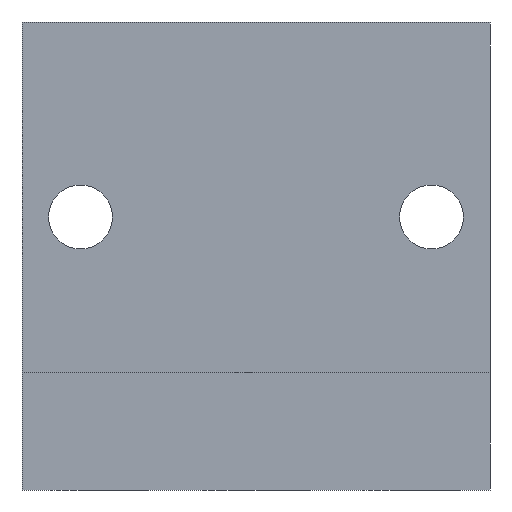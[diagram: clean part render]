
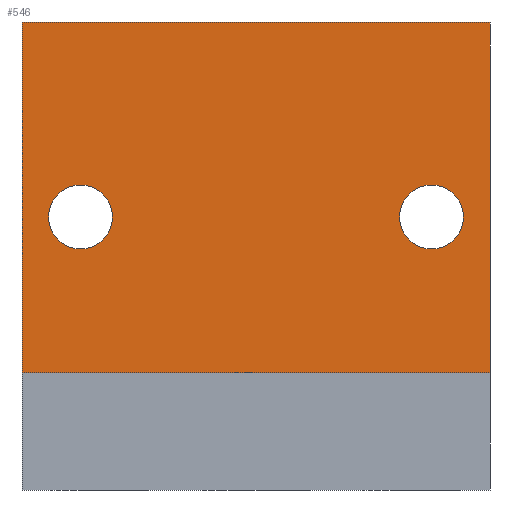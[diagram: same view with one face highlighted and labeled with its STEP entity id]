
A CAD part, front view. The second image highlights one B-rep face of the part: STEP entity #546.
In plain terms, the highlighted planar face has unit normal (0, -1, 0).
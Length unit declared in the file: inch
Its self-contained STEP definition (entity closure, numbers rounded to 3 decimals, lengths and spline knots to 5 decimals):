
#6 = VECTOR ( 'NONE', #735, 39.37008 ) ;
#7 = ORIENTED_EDGE ( 'NONE', *, *, #419, .T. ) ;
#9 = AXIS2_PLACEMENT_3D ( 'NONE', #741, #751, #748 ) ;
#33 = LINE ( 'NONE', #822, #714 ) ;
#37 = ORIENTED_EDGE ( 'NONE', *, *, #140, .T. ) ;
#41 = CARTESIAN_POINT ( 'NONE',  ( -1.46274, -1.31698, 1.955 ) ) ;
#48 = ORIENTED_EDGE ( 'NONE', *, *, #924, .T. ) ;
#52 = CARTESIAN_POINT ( 'NONE',  ( 1.16226, -1.31698, 3. ) ) ;
#61 = LINE ( 'NONE', #249, #233 ) ;
#63 = ORIENTED_EDGE ( 'NONE', *, *, #222, .T. ) ;
#72 = EDGE_LOOP ( 'NONE', ( #7, #63 ) ) ;
#76 = CIRCLE ( 'NONE', #835, 0.205 ) ;
#108 = DIRECTION ( 'NONE',  ( 0., 0., -1. ) ) ;
#124 = VERTEX_POINT ( 'NONE', #659 ) ;
#140 = EDGE_CURVE ( 'NONE', #867, #654, #61, .T. ) ;
#161 = DIRECTION ( 'NONE',  ( 0., 0., 1. ) ) ;
#163 = DIRECTION ( 'NONE',  ( 0., 1., 0. ) ) ;
#167 = CARTESIAN_POINT ( 'NONE',  ( -1.46274, -1.31698, 1.75 ) ) ;
#179 = VERTEX_POINT ( 'NONE', #52 ) ;
#192 = CARTESIAN_POINT ( 'NONE',  ( -1.83774, -1.31698, 3. ) ) ;
#208 = CARTESIAN_POINT ( 'NONE',  ( -1.46274, -1.31698, 1.545 ) ) ;
#222 = EDGE_CURVE ( 'NONE', #645, #353, #76, .T. ) ;
#233 = VECTOR ( 'NONE', #108, 39.37008 ) ;
#244 = VERTEX_POINT ( 'NONE', #41 ) ;
#249 = CARTESIAN_POINT ( 'NONE',  ( -1.83774, -1.31698, 0.375 ) ) ;
#252 = EDGE_CURVE ( 'NONE', #877, #244, #919, .T. ) ;
#266 = CARTESIAN_POINT ( 'NONE',  ( 0.78726, -1.31698, 1.75 ) ) ;
#275 = DIRECTION ( 'NONE',  ( 1., 0., 0. ) ) ;
#278 = CARTESIAN_POINT ( 'NONE',  ( -1.83774, -1.31698, 3. ) ) ;
#287 = EDGE_CURVE ( 'NONE', #179, #124, #865, .T. ) ;
#291 = FACE_BOUND ( 'NONE', #72, .T. ) ;
#353 = VERTEX_POINT ( 'NONE', #676 ) ;
#373 = CARTESIAN_POINT ( 'NONE',  ( -1.83774, -1.31698, 0.75 ) ) ;
#385 = CARTESIAN_POINT ( 'NONE',  ( 0.78726, -1.31698, 1.545 ) ) ;
#408 = ORIENTED_EDGE ( 'NONE', *, *, #252, .T. ) ;
#419 = EDGE_CURVE ( 'NONE', #353, #645, #727, .T. ) ;
#445 = FACE_OUTER_BOUND ( 'NONE', #758, .T. ) ;
#447 = ORIENTED_EDGE ( 'NONE', *, *, #753, .F. ) ;
#476 = LINE ( 'NONE', #278, #498 ) ;
#486 = DIRECTION ( 'NONE',  ( 0., 0., 1. ) ) ;
#490 = DIRECTION ( 'NONE',  ( 0., 1., 0. ) ) ;
#491 = PLANE ( 'NONE',  #921 ) ;
#498 = VECTOR ( 'NONE', #275, 39.37008 ) ;
#503 = CARTESIAN_POINT ( 'NONE',  ( -1.83774, -1.31698, 0.375 ) ) ;
#512 = FACE_BOUND ( 'NONE', #875, .T. ) ;
#522 = EDGE_CURVE ( 'NONE', #124, #654, #33, .T. ) ;
#546 = ADVANCED_FACE ( 'NONE', ( #512, #291, #445 ), #491, .F. ) ;
#554 = AXIS2_PLACEMENT_3D ( 'NONE', #642, #639, #633 ) ;
#576 = CIRCLE ( 'NONE', #742, 0.205 ) ;
#633 = DIRECTION ( 'NONE',  ( 0., 0., 1. ) ) ;
#639 = DIRECTION ( 'NONE',  ( 0., 1., 0. ) ) ;
#642 = CARTESIAN_POINT ( 'NONE',  ( 0.78726, -1.31698, 1.75 ) ) ;
#645 = VERTEX_POINT ( 'NONE', #385 ) ;
#654 = VERTEX_POINT ( 'NONE', #373 ) ;
#659 = CARTESIAN_POINT ( 'NONE',  ( 1.16226, -1.31698, 0.75 ) ) ;
#676 = CARTESIAN_POINT ( 'NONE',  ( 0.78726, -1.31698, 1.955 ) ) ;
#711 = CARTESIAN_POINT ( 'NONE',  ( 1.16226, -1.31698, 0.375 ) ) ;
#714 = VECTOR ( 'NONE', #821, 39.37008 ) ;
#727 = CIRCLE ( 'NONE', #554, 0.205 ) ;
#735 = DIRECTION ( 'NONE',  ( 0., 0., -1. ) ) ;
#741 = CARTESIAN_POINT ( 'NONE',  ( -1.46274, -1.31698, 1.75 ) ) ;
#742 = AXIS2_PLACEMENT_3D ( 'NONE', #167, #163, #161 ) ;
#748 = DIRECTION ( 'NONE',  ( 0., 0., 1. ) ) ;
#751 = DIRECTION ( 'NONE',  ( 0., 1., 0. ) ) ;
#753 = EDGE_CURVE ( 'NONE', #867, #179, #476, .T. ) ;
#758 = EDGE_LOOP ( 'NONE', ( #37, #920, #870, #447 ) ) ;
#815 = DIRECTION ( 'NONE',  ( 0., 1., 0. ) ) ;
#821 = DIRECTION ( 'NONE',  ( -1., 0., 0. ) ) ;
#822 = CARTESIAN_POINT ( 'NONE',  ( -1.83774, -1.31698, 0.75 ) ) ;
#835 = AXIS2_PLACEMENT_3D ( 'NONE', #266, #815, #881 ) ;
#865 = LINE ( 'NONE', #711, #6 ) ;
#867 = VERTEX_POINT ( 'NONE', #192 ) ;
#870 = ORIENTED_EDGE ( 'NONE', *, *, #287, .F. ) ;
#875 = EDGE_LOOP ( 'NONE', ( #48, #408 ) ) ;
#877 = VERTEX_POINT ( 'NONE', #208 ) ;
#881 = DIRECTION ( 'NONE',  ( 0., 0., 1. ) ) ;
#919 = CIRCLE ( 'NONE', #9, 0.205 ) ;
#920 = ORIENTED_EDGE ( 'NONE', *, *, #522, .F. ) ;
#921 = AXIS2_PLACEMENT_3D ( 'NONE', #503, #490, #486 ) ;
#924 = EDGE_CURVE ( 'NONE', #244, #877, #576, .T. ) ;
